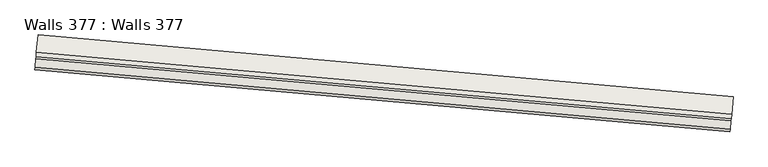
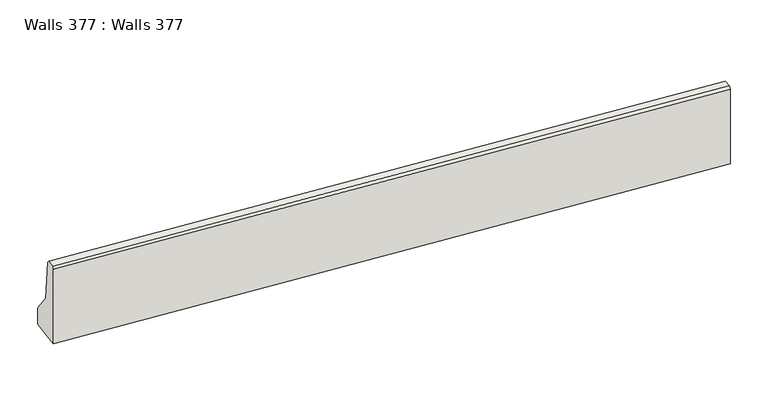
"""IFC4 building model written with IfcOpenShell, lengths in millimetres: wall geometry, Walls 377 : Walls 377."""

from ifc_helpers import new_model, si_unit, frame, origin, place, context, project, spatial, polyline, outline, extrude, source, transform, mapped, element, save


def walls_377_walls_377_254cf278(model_context):
    return source(origin(), model_context, "Body", "SweptSolid", [
        extrude(outline(polyline([(637180.0, 400.0), (637430.0, 199.9999999), (637935.0, 150.0), (637960.0, 125.0), (637960.0, 24.9999999), (637935.0, 0.0), (636960.0, 0.0), (636960.0, 400.0), (637180.0, 400.0)])), frame((-642795.3675496, -421814.65243, 0.0), z_axis=(-0.9960550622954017, 0.08873732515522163, 0.0), x_axis=(0.0, 0.0, 1.0)), (0.0, 0.0, 1.0), 8000.0000001),
    ])


if __name__ == "__main__":
    model = new_model("IFC4")
    model_context = context("Model", 3, world=origin())
    ifc_project = project(units=[si_unit("LENGTHUNIT", "METRE", prefix="MILLI")], contexts=[model_context])
    site = spatial("IfcSite", under=ifc_project)
    building = spatial("IfcBuilding", under=site)
    placement = place(None, origin())
    walls_377_walls_377_shape = walls_377_walls_377_254cf278(model_context)
    element("IfcWall", 1, ObjectType="Walls 377 : Walls 377", at=placement, inside=building, context=model_context, shape_type="MappedRepresentation", body=[
        mapped(walls_377_walls_377_shape, transform((0.0, 0.0, 0.0), x_axis=(1.0, 0.0, 0.0), y_axis=(0.0, 1.0, 0.0), z_axis=(0.0, 0.0, 1.0))),
    ])
    save(model, "model.ifc")
